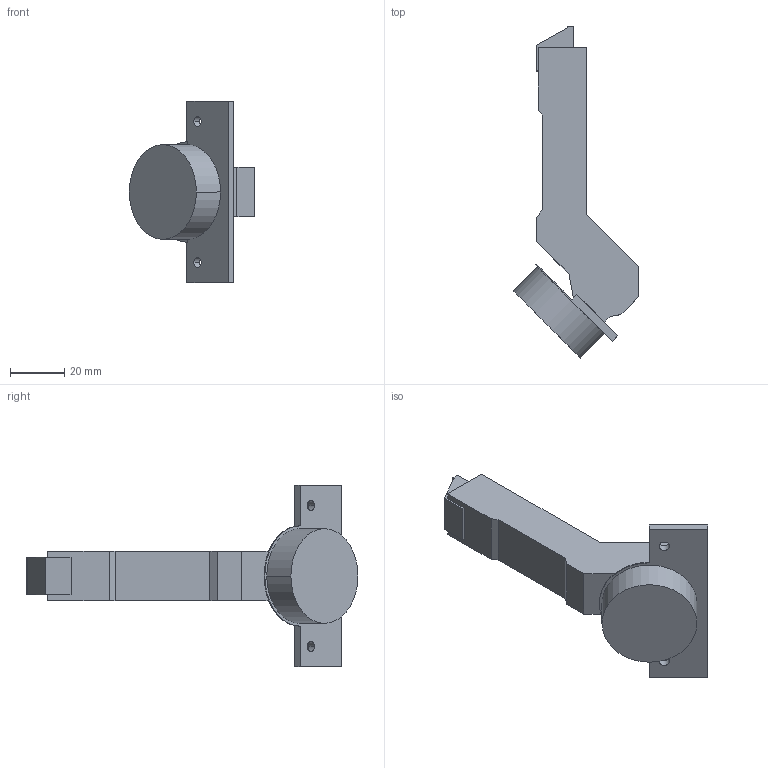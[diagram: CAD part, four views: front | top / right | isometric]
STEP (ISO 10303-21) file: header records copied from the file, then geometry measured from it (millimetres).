
FILE_DESCRIPTION (( 'STEP AP214' ), '1' );
FILE_NAME ('Scharnier TS Click-on 110°_+45° H_BB, einliegend.step', '2010-12-13T10:21:56', ( 'grass' ), ( '' ), 'SwSTEP 2.0', 'SolidWorks 2010', '' );
FILE_SCHEMA (( 'AUTOMOTIVE_DESIGN' ));
Length unit declared in the file: millimetre
Products named in the file (1): Scharnier TS Click-on 110°_+45° H_BB, einliegend
Bounding box: 46.28 x 122.48 x 67 mm (x, y, z)
Volume: 52727 mm3; surface area: 14121.6 mm2
Topology: 1 solids, 1 shells, 50 faces, 132 edges, 88 vertices
Faces by surface type: plane 37, cylinder 13
Entity records: 1584 total; most frequent: CARTESIAN_POINT 271, ORIENTED_EDGE 264, DIRECTION 260, EDGE_CURVE 132, VECTOR 106, LINE 106, VERTEX_POINT 88, AXIS2_PLACEMENT_3D 77
